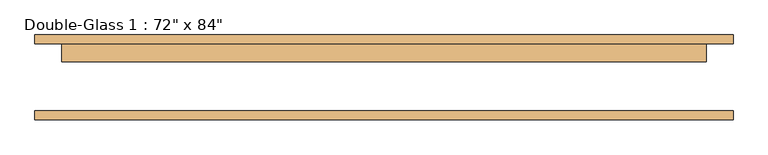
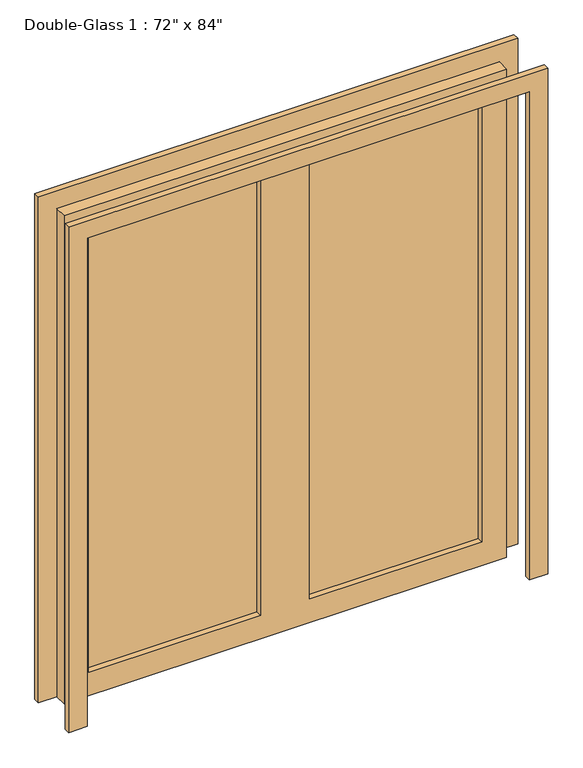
"""IFC4 building model written with IfcOpenShell, lengths in millimetres: door geometry."""

from ifc_helpers import new_model, si_unit, frame, origin, place, context, project, spatial, polyline, outline, extrude, source, transform, mapped, element, save


def door_ce3cf271(model_context):
    return source(origin(), model_context, "Body", "SweptSolid", [
        extrude(outline(polyline([(0.0, 990.6), (2209.8, 990.6), (2209.8, -990.6), (0.0, -990.6), (0.0, -914.4), (2133.6, -914.4), (2133.6, 914.4), (0.0, 914.4), (0.0, 990.6)])), frame((0.0, -118.01875, 0.0), z_axis=(0.0, 1.0, 0.0), x_axis=(0.0, 0.0, 1.0)), (0.0, 0.0, 1.0), 25.4),
        extrude(outline(polyline([(2133.6, 914.4), (0.0, 914.4), (0.0, 990.6), (2209.8, 990.6), (2209.8, -990.6), (0.0, -990.6), (0.0, -914.4), (2133.6, -914.4), (2133.6, 914.4)])), frame((0.0, 97.38125, 0.0), z_axis=(0.0, 1.0, 0.0), x_axis=(0.0, 0.0, 1.0)), (0.0, 0.0, 1.0), 25.4),
        extrude(outline(polyline([(812.8, 71.98125), (101.6, 71.98125), (101.6, 79.125), (812.8, 79.125), (812.8, 71.98125)])), frame((0.0, 0.0, 101.6), z_axis=(0.0, 0.0, 1.0), x_axis=(1.0, 0.0, 0.0)), (0.0, 0.0, 1.0), 1930.4),
        extrude(outline(polyline([(-101.6, 71.98125), (-812.8, 71.98125), (-812.8, 79.125), (-101.6, 79.125), (-101.6, 71.98125)])), frame((0.0, 0.0, 101.6), z_axis=(0.0, 0.0, 1.0), x_axis=(1.0, 0.0, 0.0)), (0.0, 0.0, 1.0), 1930.4),
        extrude(outline(polyline([(2133.6, 914.4), (2133.6, -914.4), (0.0, -914.4), (0.0, 914.4), (2133.6, 914.4)]), holes=[polyline([(2032.0, -101.6), (101.6, -101.6), (101.6, -812.8), (2032.0, -812.8), (2032.0, -101.6)]), polyline([(2032.0, 812.8), (101.6, 812.8), (101.6, 101.6), (2032.0, 101.6), (2032.0, 812.8)])]), frame((0.0, 46.58125, 0.0), z_axis=(0.0, 1.0, 0.0), x_axis=(0.0, 0.0, 1.0)), (0.0, 0.0, 1.0), 50.8),
    ])


if __name__ == "__main__":
    model = new_model("IFC4")
    model_context = context("Model", 3, world=origin())
    ifc_project = project(units=[si_unit("LENGTHUNIT", "METRE", prefix="MILLI")], contexts=[model_context])
    site = spatial("IfcSite", under=ifc_project)
    building = spatial("IfcBuilding", under=site)
    placement = place(None, origin())
    door_shape = door_ce3cf271(model_context)
    element("IfcDoor", 1, ObjectType="Double-Glass 1 : 72\" x 84\"", at=placement, inside=building, context=model_context, shape_type="MappedRepresentation", body=[
        mapped(door_shape, transform((0.0, 0.0, 0.0), x_axis=(1.0, 0.0, 0.0), y_axis=(0.0, 1.0, 0.0), z_axis=(0.0, 0.0, 1.0))),
    ])
    save(model, "model.ifc")
